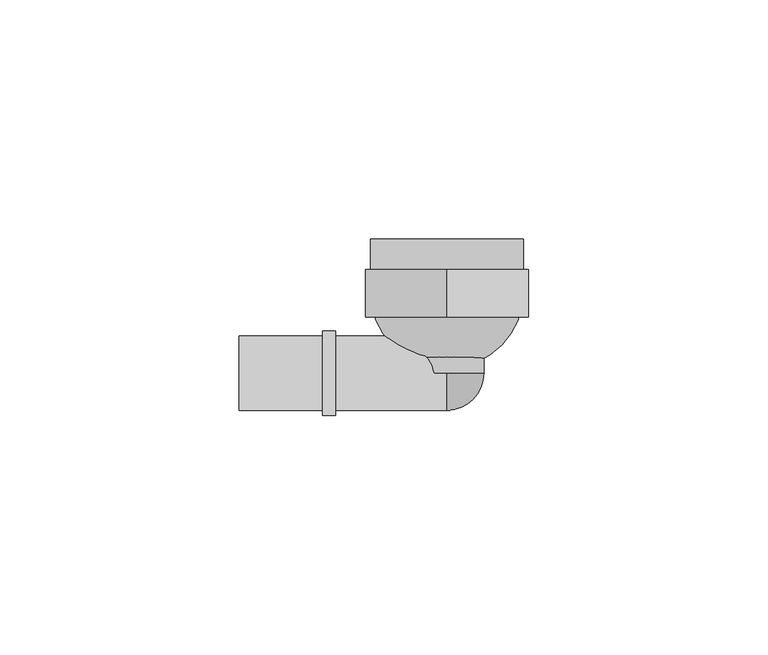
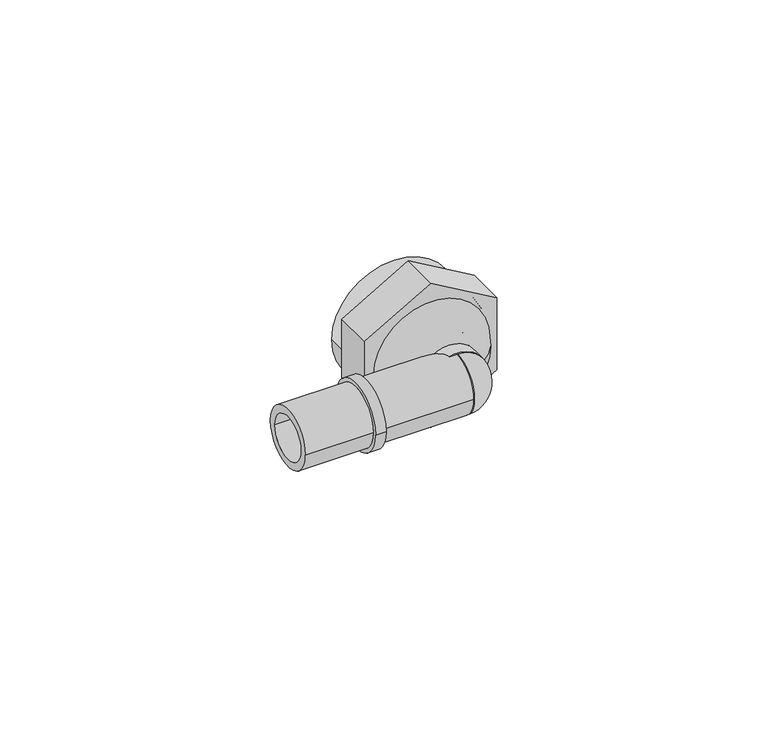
"""IFC4 building model written with IfcOpenShell, lengths in millimetres: pipe fitting geometry, FASTLOC_Elbow with female thread LX : FSL A internal PL."""

from ifc_helpers import new_model, si_unit, point, frame, origin, origin_2d, place, context, project, spatial, polyline, circle_curve, ellipse_curve, trimmed, segment, composite_curve, outline, extrude, source, transform, mapped, element, save
from ifc_brep_helpers import plane_surface, cylinder_surface, revolved_surface, advanced_brep


def pipe_fitting_3a174489(model_context):
    return source(origin(), model_context, "Body", "SolidModel", [
        extrude(outline(composite_curve([segment(trimmed(circle_curve(origin_2d(), 7.75), [point((0.0, -7.75))], [point((0.0, 7.75))], False, "CARTESIAN"), True, "CONTINUOUS"), segment(trimmed(circle_curve(origin_2d(), 7.75), [point((0.0, 7.75))], [point((0.0, -7.75))], False, "CARTESIAN"), True, "CONTINUOUS")], self_intersect=False), holes=[composite_curve([segment(trimmed(circle_curve(origin_2d(), 5.75), [point((0.0, -5.75))], [point((0.0, 5.75))], True, "CARTESIAN"), True, "CONTINUOUS"), segment(trimmed(circle_curve(origin_2d(), 5.75), [point((0.0, 5.75))], [point((0.0, -5.75))], True, "CARTESIAN"), True, "CONTINUOUS")], self_intersect=False)]), frame((0.0, 0.0, 0.0), z_axis=(0.0, 1.0, 0.0), x_axis=(0.0, 0.0, 1.0)), (0.0, 0.0, 1.0), 11.7),
        extrude(outline(polyline([(-9.8149546, 17.0), (9.8149546, 17.0), (19.6299092, 0.0), (9.8149546, -17.0), (-9.8149546, -17.0), (-19.6299092, 0.0), (-9.8149546, 17.0)])), frame((0.0, 11.7, 0.0), z_axis=(0.0, 1.0, 0.0), x_axis=(0.0, 0.0, 1.0)), (0.0, 0.0, 1.0), 10.0),
        advanced_brep(
        [(0.0, 0.0, 7.75), (0.0, 0.0, 3.875), (0.0, -3.875, 0.0), (0.0, -7.75, 0.0), (0.0, 0.0, -7.75), (0.0, 0.0, -3.875)],
        [
            (0, 1),
            (1, 2, circle_curve(frame((0.0, 0.0, 0.0), z_axis=(1.0, 0.0, 0.0), x_axis=(0.0, 0.0, 1.0)), 3.875)),
            (2, 3),
            (3, 0, circle_curve(frame((0.0, 0.0, 0.0), z_axis=(-1.0, 0.0, 0.0), x_axis=(0.0, 0.0, 1.0)), 7.75)),
            (4, 3, circle_curve(frame((0.0, 0.0, 0.0), z_axis=(-1.0, 0.0, 0.0), x_axis=(0.0, 0.0, -1.0)), 7.75)),
            (2, 5, circle_curve(frame((0.0, 0.0, 0.0), z_axis=(1.0, 0.0, 0.0), x_axis=(0.0, 0.0, -1.0)), 3.875)),
            (5, 4),
            (5, 1, circle_curve(frame((0.0, 0.0, 0.0), z_axis=(0.0, -1.0, 0.0), x_axis=(0.0, 0.0, 1.0)), 3.875)),
            (0, 4, circle_curve(frame((0.0, 0.0, 0.0), z_axis=(0.0, 1.0, 0.0), x_axis=(0.0, 0.0, 1.0)), 7.75)),
        ],
        [
            plane_surface(frame((0.0, 0.0, 0.0), z_axis=(-1.0, 0.0, 0.0), x_axis=(0.0, 0.0, 1.0))),
            plane_surface(frame((0.0, 0.0, 0.0), z_axis=(-1.0, 0.0, 0.0), x_axis=(0.0, 0.0, -1.0))),
            plane_surface(frame((0.0, 0.0, 0.0), z_axis=(0.0, 1.0, 0.0), x_axis=(0.0, 0.0, 1.0))),
            revolved_surface(trimmed(ellipse_curve(frame((0.0, 0.0, 0.0), z_axis=(1.0, 0.0, 0.0), x_axis=(0.0, 0.0, 1.0)), 3.875, 3.875), [point((0.0, 0.0, 3.875))], [point((0.0, -3.875, 0.0))], True, "CARTESIAN"), (0.0, 0.0, 0.0), (0.0, 1.0, 0.0)),
            revolved_surface(trimmed(ellipse_curve(frame((0.0, 0.0, 0.0), z_axis=(-1.0, 0.0, 0.0), x_axis=(0.0, 0.0, 1.0)), 7.75, 7.75), [point((0.0, -7.75, 0.0))], [point((0.0, 0.0, 7.75))], True, "CARTESIAN"), (0.0, 0.0, 0.0), (0.0, 1.0, 0.0)),
        ],
        [
            (0, [[1, 2, 3, 4]]),
            (1, [[5, -3, 6, 7]]),
            (2, [[8, -1, 9, -7]]),
            (3, [[-2, -8, -6]]),
            (4, [[-9, -4, -5]]),
        ],
    ),
        advanced_brep(
        [(-26.0, 7.75, 0.0), (-26.0, -7.75, 0.0), (-43.4, -7.75, 0.0), (-43.4, 7.75, 0.0), (-23.3, 8.8, 0.0), (-23.3, -8.8, 0.0), (-26.0, -8.8, 0.0), (-26.0, 8.8, 0.0), (0.0, 7.75, 0.0), (0.0, -7.75, 0.0), (-23.3, -7.75, 0.0), (-23.3, 7.75, 0.0), (-43.4, 5.75, 0.0), (-43.4, -5.75, 0.0), (0.0, -5.75, 0.0), (0.0, 5.75, 0.0)],
        [
            (0, 1, circle_curve(frame((-26.0, 0.0, 0.0), z_axis=(-1.0, 0.0, 0.0), x_axis=(0.0, -1.0, 0.0)), 7.75)),
            (1, 2),
            (2, 3, circle_curve(frame((-43.4, 0.0, 0.0), z_axis=(1.0, 0.0, 0.0), x_axis=(0.0, -1.0, 0.0)), 7.75)),
            (3, 0),
            (4, 5, circle_curve(frame((-23.3, 0.0, 0.0), z_axis=(-1.0, 0.0, 0.0), x_axis=(0.0, -1.0, 0.0)), 8.8)),
            (5, 6),
            (6, 7, circle_curve(frame((-26.0, 0.0, 0.0), z_axis=(1.0, 0.0, 0.0), x_axis=(0.0, -1.0, 0.0)), 8.8)),
            (7, 4),
            (8, 9, circle_curve(frame((0.0, 0.0, 0.0), z_axis=(-1.0, 0.0, 0.0), x_axis=(0.0, -1.0, 0.0)), 7.75)),
            (9, 10),
            (10, 11, circle_curve(frame((-23.3, 0.0, 0.0), z_axis=(1.0, 0.0, 0.0), x_axis=(0.0, -1.0, 0.0)), 7.75)),
            (11, 8),
            (12, 13, circle_curve(frame((-43.4, 0.0, 0.0), z_axis=(-1.0, 0.0, 0.0), x_axis=(0.0, -1.0, 0.0)), 5.75)),
            (13, 14),
            (14, 15, circle_curve(frame((0.0, 0.0, 0.0), z_axis=(1.0, 0.0, 0.0), x_axis=(0.0, -1.0, 0.0)), 5.75)),
            (15, 12),
            (2, 3, circle_curve(frame((-43.4, 0.0, 0.0), z_axis=(-1.0, 0.0, 0.0), x_axis=(0.0, 1.0, 0.0)), 7.75)),
            (12, 13, circle_curve(frame((-43.4, 0.0, 0.0), z_axis=(1.0, 0.0, 0.0), x_axis=(0.0, 1.0, 0.0)), 5.75)),
            (1, 0, circle_curve(frame((-26.0, 0.0, 0.0), z_axis=(-1.0, 0.0, 0.0), x_axis=(0.0, 1.0, 0.0)), 7.75)),
            (6, 7, circle_curve(frame((-26.0, 0.0, 0.0), z_axis=(-1.0, 0.0, 0.0), x_axis=(0.0, 1.0, 0.0)), 8.8)),
            (5, 4, circle_curve(frame((-23.3, 0.0, 0.0), z_axis=(-1.0, 0.0, 0.0), x_axis=(0.0, 1.0, 0.0)), 8.8)),
            (10, 11, circle_curve(frame((-23.3, 0.0, 0.0), z_axis=(-1.0, 0.0, 0.0), x_axis=(0.0, 1.0, 0.0)), 7.75)),
            (9, 8, circle_curve(frame((0.0, 0.0, 0.0), z_axis=(-1.0, 0.0, 0.0), x_axis=(0.0, 1.0, 0.0)), 7.75)),
            (14, 15, circle_curve(frame((0.0, 0.0, 0.0), z_axis=(-1.0, 0.0, 0.0), x_axis=(0.0, 1.0, 0.0)), 5.75)),
        ],
        [
            cylinder_surface(frame((0.0, 0.0, 0.0), z_axis=(1.0, 0.0, 0.0), x_axis=(0.0, -1.0, 0.0)), 7.75),
            cylinder_surface(frame((0.0, 0.0, 0.0), z_axis=(1.0, 0.0, 0.0), x_axis=(0.0, -1.0, 0.0)), 8.8),
            revolved_surface(polyline([(0.0, -5.75, 0.0), (-43.4, -5.75, 0.0)]), (0.0, 0.0, 0.0), (1.0, 0.0, 0.0)),
            plane_surface(frame((-43.4, 0.0, 0.0), z_axis=(-1.0, 0.0, 0.0), x_axis=(0.0, 1.0, 0.0))),
            cylinder_surface(frame((0.0, 0.0, 0.0), z_axis=(1.0, 0.0, 0.0), x_axis=(0.0, 1.0, 0.0)), 7.75),
            plane_surface(frame((-26.0, 0.0, 0.0), z_axis=(-1.0, 0.0, 0.0), x_axis=(0.0, 1.0, 0.0))),
            cylinder_surface(frame((0.0, 0.0, 0.0), z_axis=(1.0, 0.0, 0.0), x_axis=(0.0, 1.0, 0.0)), 8.8),
            plane_surface(frame((-23.3, 0.0, 0.0), z_axis=(1.0, 0.0, 0.0), x_axis=(0.0, 1.0, 0.0))),
            plane_surface(frame((0.0, 0.0, 0.0), z_axis=(1.0, 0.0, 0.0), x_axis=(0.0, 1.0, 0.0))),
            revolved_surface(polyline([(0.0, 5.75, 0.0), (-43.4, 5.75, 0.0)]), (0.0, 0.0, 0.0), (1.0, 0.0, 0.0)),
        ],
        [
            (0, [[1, 2, 3, 4]]),
            (1, [[5, 6, 7, 8]]),
            (0, [[9, 10, 11, 12]]),
            (2, [[13, 14, 15, 16]]),
            (3, [[17, -3], [18, -13]]),
            (4, [[19, -4, -17, -2]]),
            (5, [[20, -7], [-19, -1]]),
            (6, [[21, -8, -20, -6]]),
            (7, [[-21, -5], [22, -11]]),
            (4, [[23, -12, -22, -10]]),
            (8, [[-23, -9], [24, -15]]),
            (9, [[-18, -16, -24, -14]]),
        ],
    ),
        advanced_brep(
        [(0.5, 1.0078144, 0.0), (-0.5, 1.0078144, 0.0), (-16.0, 17.0, 0.0), (16.0, 17.0, 0.0), (0.5, 7.0125078, 0.0), (-0.5, 7.0125078, 0.0), (10.0, 17.0, 0.0), (-10.0, 17.0, 0.0), (10.0, 28.0, 0.0), (-10.0, 28.0, 0.0), (-16.0, 28.0, 0.0), (16.0, 28.0, 0.0)],
        [
            (0, 1, circle_curve(frame((0.0, 1.0078144, 0.0), z_axis=(0.0, 1.0, 0.0), x_axis=(-1.0, 0.0, 0.0)), 0.5)),
            (1, 2, circle_curve(frame((0.0, 17.0, 0.0), z_axis=(0.0, 0.0, -1.0), x_axis=(0.0, 1.0, 0.0)), 16.0)),
            (2, 3, circle_curve(frame((0.0, 17.0, 0.0), z_axis=(0.0, -1.0, 0.0), x_axis=(-1.0, 0.0, 0.0)), 16.0)),
            (3, 0, circle_curve(frame((0.0, 17.0, 0.0), z_axis=(0.0, 0.0, -1.0), x_axis=(0.0, 1.0, 0.0)), 16.0)),
            (4, 5, circle_curve(frame((0.0, 7.0125078, 0.0), z_axis=(0.0, 1.0, 0.0), x_axis=(-1.0, 0.0, 0.0)), 0.5)),
            (5, 1),
            (0, 4),
            (6, 7, circle_curve(frame((0.0, 17.0, 0.0), z_axis=(0.0, 1.0, 0.0), x_axis=(-1.0, 0.0, 0.0)), 10.0)),
            (7, 5, circle_curve(frame((0.0, 17.0, 0.0), z_axis=(0.0, 0.0, 1.0), x_axis=(0.0, 1.0, 0.0)), 10.0)),
            (4, 6, circle_curve(frame((0.0, 17.0, 0.0), z_axis=(0.0, 0.0, 1.0), x_axis=(0.0, 1.0, 0.0)), 10.0)),
            (8, 9, circle_curve(frame((0.0, 28.0, 0.0), z_axis=(0.0, 1.0, 0.0), x_axis=(-1.0, 0.0, 0.0)), 10.0)),
            (9, 7),
            (6, 8),
            (2, 10),
            (10, 11, circle_curve(frame((0.0, 28.0, 0.0), z_axis=(0.0, -1.0, 0.0), x_axis=(-1.0, 0.0, 0.0)), 16.0)),
            (11, 3),
            (1, 0, circle_curve(frame((0.0, 1.0078144, 0.0), z_axis=(0.0, 1.0, 0.0), x_axis=(1.0, 0.0, 0.0)), 0.5)),
            (3, 2, circle_curve(frame((0.0, 17.0, 0.0), z_axis=(0.0, -1.0, 0.0), x_axis=(1.0, 0.0, 0.0)), 16.0)),
            (5, 4, circle_curve(frame((0.0, 7.0125078, 0.0), z_axis=(0.0, 1.0, 0.0), x_axis=(1.0, 0.0, 0.0)), 0.5)),
            (7, 6, circle_curve(frame((0.0, 17.0, 0.0), z_axis=(0.0, 1.0, 0.0), x_axis=(1.0, 0.0, 0.0)), 10.0)),
            (9, 8, circle_curve(frame((0.0, 28.0, 0.0), z_axis=(0.0, 1.0, 0.0), x_axis=(1.0, 0.0, 0.0)), 10.0)),
            (10, 11, circle_curve(frame((0.0, 28.0, 0.0), z_axis=(0.0, 1.0, 0.0), x_axis=(1.0, 0.0, 0.0)), 16.0)),
        ],
        [
            revolved_surface(trimmed(ellipse_curve(frame((0.0, 17.0, 0.0), z_axis=(0.0, 0.0, 1.0), x_axis=(0.0, 1.0, 0.0)), 16.0, 16.0), [point((-16.0, 17.0, 0.0))], [point((-0.5, 1.0078144, 0.0))], True, "CARTESIAN"), (0.0, 11.7, 0.0), (0.0, -1.0, 0.0)),
            revolved_surface(polyline([(-0.5, 1.0078144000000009, 0.0), (-0.5, 7.0125078, 0.0)]), (0.0, 11.7, 0.0), (0.0, -1.0, 0.0)),
            revolved_surface(trimmed(ellipse_curve(frame((0.0, 17.0, 0.0), z_axis=(0.0, 0.0, -1.0), x_axis=(0.0, 1.0, 0.0)), 10.0, 10.0), [point((-0.5, 7.0125078, 0.0))], [point((-10.0, 17.0, 0.0))], True, "CARTESIAN"), (0.0, 11.7, 0.0), (0.0, -1.0, 0.0)),
            revolved_surface(polyline([(-10.0, 17.0, 0.0), (-10.0, 28.0, 0.0)]), (0.0, 11.7, 0.0), (0.0, -1.0, 0.0)),
            cylinder_surface(frame((0.0, 11.7, 0.0), z_axis=(0.0, -1.0, 0.0), x_axis=(-1.0, 0.0, 0.0)), 16.0),
            revolved_surface(trimmed(ellipse_curve(frame((0.0, 17.0, 0.0), z_axis=(0.0, 0.0, -1.0), x_axis=(0.0, 1.0, 0.0)), 16.0, 16.0), [point((16.0, 17.0, 0.0))], [point((0.5, 1.0078144, 0.0))], True, "CARTESIAN"), (0.0, 11.7, 0.0), (0.0, -1.0, 0.0)),
            revolved_surface(polyline([(0.5, 1.0078144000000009, 0.0), (0.5, 7.0125078, 0.0)]), (0.0, 11.7, 0.0), (0.0, -1.0, 0.0)),
            revolved_surface(trimmed(ellipse_curve(frame((0.0, 17.0, 0.0), z_axis=(0.0, 0.0, 1.0), x_axis=(0.0, 1.0, 0.0)), 10.0, 10.0), [point((0.5, 7.0125078, 0.0))], [point((10.0, 17.0, 0.0))], True, "CARTESIAN"), (0.0, 11.7, 0.0), (0.0, -1.0, 0.0)),
            revolved_surface(polyline([(10.0, 17.0, 0.0), (10.0, 28.0, 0.0)]), (0.0, 11.7, 0.0), (0.0, -1.0, 0.0)),
            plane_surface(frame((0.0, 28.0, 0.0), z_axis=(0.0, 1.0, 0.0), x_axis=(1.0, 0.0, 0.0))),
            cylinder_surface(frame((0.0, 11.7, 0.0), z_axis=(0.0, -1.0, 0.0), x_axis=(1.0, 0.0, 0.0)), 16.0),
        ],
        [
            (0, [[1, 2, 3, 4]]),
            (1, [[5, 6, -1, 7]]),
            (2, [[8, 9, -5, 10]]),
            (3, [[11, 12, -8, 13]]),
            (4, [[-3, 14, 15, 16]]),
            (5, [[17, -4, 18, -2]]),
            (6, [[19, -7, -17, -6]]),
            (7, [[20, -10, -19, -9]]),
            (8, [[21, -13, -20, -12]]),
            (9, [[22, -15], [-21, -11]]),
            (10, [[-18, -16, -22, -14]]),
        ],
    ),
    ])


if __name__ == "__main__":
    model = new_model("IFC4")
    model_context = context("Model", 3, world=origin())
    ifc_project = project(units=[si_unit("LENGTHUNIT", "METRE", prefix="MILLI")], contexts=[model_context])
    site = spatial("IfcSite", under=ifc_project)
    building = spatial("IfcBuilding", under=site)
    placement = place(None, origin())
    pipe_fitting_shape = pipe_fitting_3a174489(model_context)
    element("IfcPipeFitting", 1, ObjectType="FASTLOC_Elbow with female thread LX : FSL A internal PL", at=placement, inside=building, context=model_context, shape_type="MappedRepresentation", body=[
        mapped(pipe_fitting_shape, transform((0.0, 0.0, 0.0), x_axis=(1.0, 0.0, 0.0), y_axis=(0.0, 1.0, 0.0), z_axis=(0.0, 0.0, 1.0))),
    ])
    save(model, "model.ifc")
